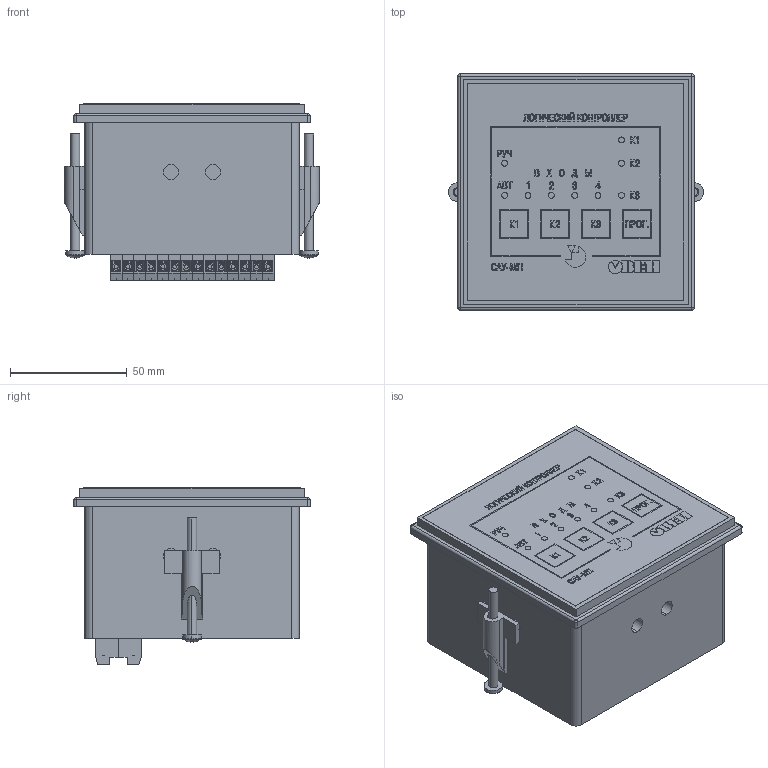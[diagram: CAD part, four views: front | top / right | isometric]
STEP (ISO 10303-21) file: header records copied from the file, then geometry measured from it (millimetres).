
FILE_DESCRIPTION (( 'STEP AP214' ), '1' );
FILE_NAME ('3D_ﾑﾀﾓ-ﾌﾏ_ﾙ1.STEP', '2015-07-21T18:56:19', ( '444' ), ( '' ), 'SwSTEP 2.0', 'SolidWorks 2013', '' );
FILE_SCHEMA (( 'AUTOMOTIVE_DESIGN' ));
Length unit declared in the file: millimetre
Products named in the file (7): 3D_ﾑﾀﾓ-ﾌﾏ_ﾙ1; Klemma_vysokaya; T°¤ê æ4¬50_B18.6.7M - M4 x 0.7 x 40 Type I Cross Recessed PHMS --40N; ÑÀÓ-ÌÏ_Ù1_ïåðåäíèé_øèëüäèê; Êîðïóñ_Ù1; 豼｢ｰ､ｨ  96ｬ96; Tê¦ ¦è ª°¤ê¦ª¦•
Assembly tree (35 placements, depth 2):
  3D_ﾑﾀﾓ-ﾌﾏ_ﾙ1
    Tê¦ ¦è ª°¤ê¦ª¦•  x2
    豼｢ｰ､ｨ  96ｬ96
    Êîðïóñ_Ù1
    ÑÀÓ-ÌÏ_Ù1_ïåðåäíèé_øèëüäèê
    T°¤ê æ4¬50_B18.6.7M - M4 x 0.7 x 40 Type I Cross Recessed PHMS --40N  x2
    Klemma_vysokaya  x28
Bounding box: 109 x 101 x 75.35 mm (x, y, z)
Volume: 569419.2 mm3; surface area: 90730.6 mm2
Topology: 35 solids, 35 shells, 2254 faces, 5707 edges, 3754 vertices
Faces by surface type: plane 1739, cylinder 274, bspline 231, sphere 6, torus 4
Entity records: 45106 total; most frequent: CARTESIAN_POINT 8733, ORIENTED_EDGE 5544, DIRECTION 4180, EDGE_CURVE 2772, LINE 2190, VECTOR 2190, VERTEX_POINT 1840, EDGE_LOOP 1202
